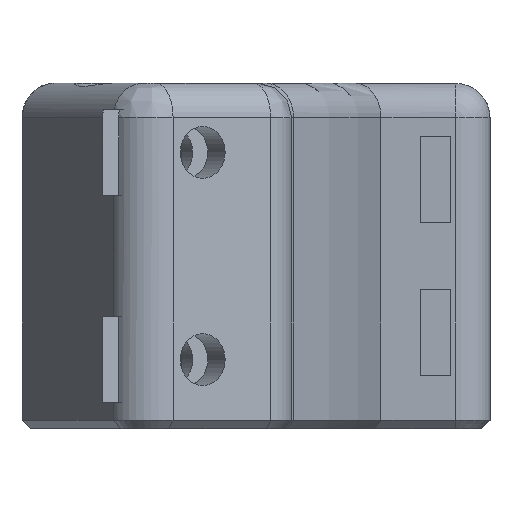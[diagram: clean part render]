
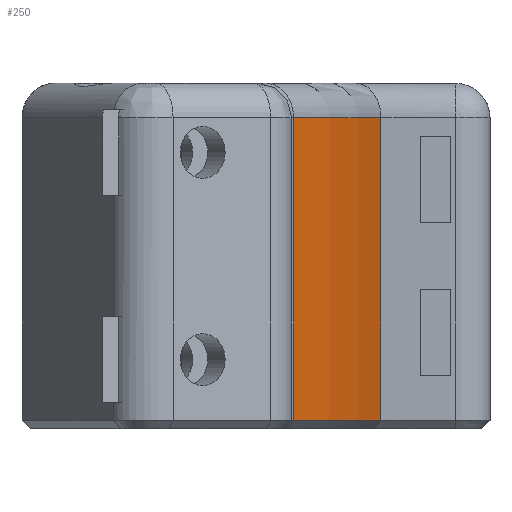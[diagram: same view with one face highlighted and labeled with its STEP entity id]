
A CAD part, left-side view. The second image highlights one B-rep face of the part: STEP entity #250.
In plain terms, the highlighted cylindrical face has radius 66.878 mm (diameter 133.756 mm), a partial arc.
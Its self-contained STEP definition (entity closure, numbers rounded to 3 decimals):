
#250=ADVANCED_FACE('',(#408),#377,.T.);
#377=CYLINDRICAL_SURFACE('',#2304,66.878);
#408=FACE_OUTER_BOUND('',#522,.T.);
#522=EDGE_LOOP('',(#865,#866,#867,#868));
#703=CIRCLE('',#2302,66.878);
#704=CIRCLE('',#2303,66.878);
#865=ORIENTED_EDGE('',*,*,#1673,.T.);
#866=ORIENTED_EDGE('',*,*,#1674,.T.);
#867=ORIENTED_EDGE('',*,*,#1645,.F.);
#868=ORIENTED_EDGE('',*,*,#1675,.T.);
#1437=VERTEX_POINT('',#3396);
#1438=VERTEX_POINT('',#3397);
#1465=VERTEX_POINT('',#3456);
#1466=VERTEX_POINT('',#3457);
#1645=EDGE_CURVE('',#1437,#1438,#1921,.T.);
#1673=EDGE_CURVE('',#1465,#1466,#1945,.T.);
#1674=EDGE_CURVE('',#1466,#1438,#703,.T.);
#1675=EDGE_CURVE('',#1437,#1465,#704,.T.);
#1921=LINE('',#3395,#2101);
#1945=LINE('',#3455,#2125);
#2101=VECTOR('',#2576,1.);
#2125=VECTOR('',#2616,1.);
#2302=AXIS2_PLACEMENT_3D('',#3458,#2617,#2618);
#2303=AXIS2_PLACEMENT_3D('',#3459,#2619,#2620);
#2304=AXIS2_PLACEMENT_3D('',#3460,#2621,#2622);
#2576=DIRECTION('',(0.,0.,-1.));
#2616=DIRECTION('',(0.,0.,-1.));
#2617=DIRECTION('',(0.,0.,1.));
#2618=DIRECTION('',(1.,0.,0.));
#2619=DIRECTION('',(0.,0.,-1.));
#2620=DIRECTION('',(1.,0.,0.));
#2621=DIRECTION('',(0.,0.,-1.));
#2622=DIRECTION('',(-1.,0.,0.));
#3395=CARTESIAN_POINT('',(104.379,31.874,40.));
#3396=CARTESIAN_POINT('',(104.379,31.874,36.));
#3397=CARTESIAN_POINT('',(104.379,31.874,1.));
#3455=CARTESIAN_POINT('',(84.862,41.985,40.));
#3456=CARTESIAN_POINT('',(84.862,41.985,36.));
#3457=CARTESIAN_POINT('',(84.862,41.985,1.));
#3458=CARTESIAN_POINT('',(124.966,95.505,1.));
#3459=CARTESIAN_POINT('',(124.966,95.505,36.));
#3460=CARTESIAN_POINT('',(124.966,95.505,40.));
